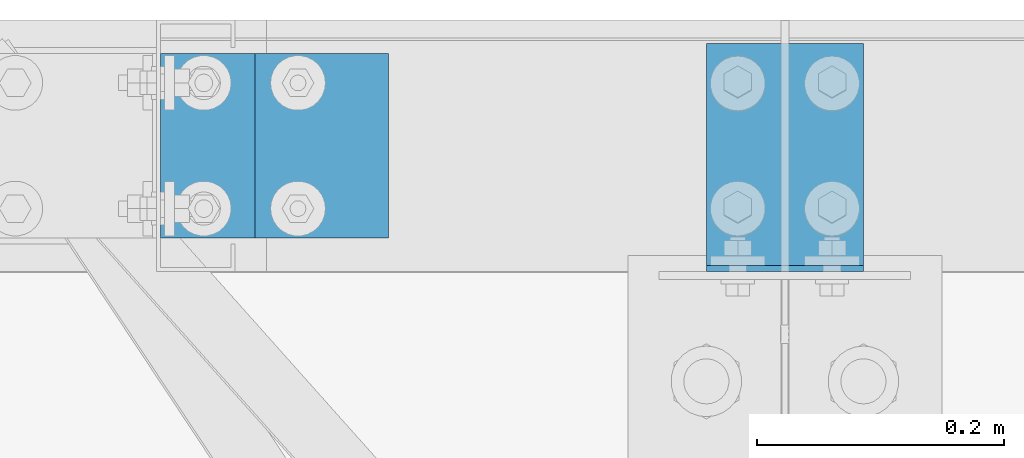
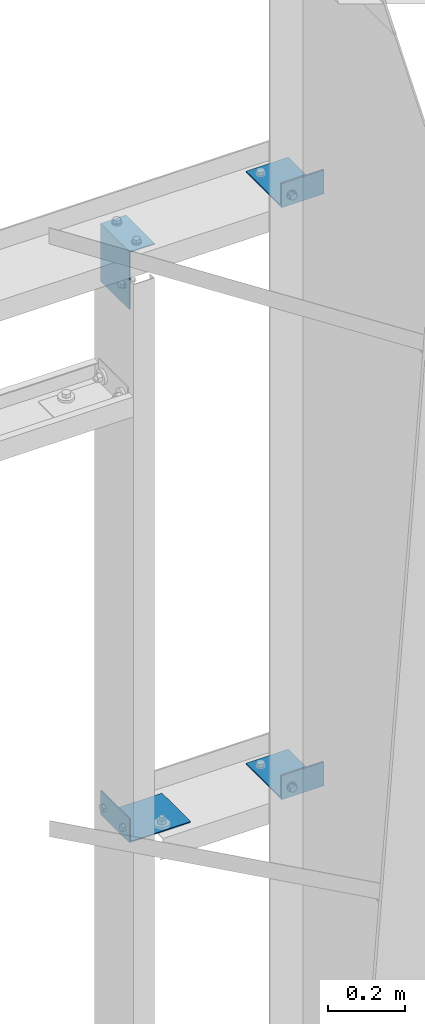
# One storey, part 185 of 185: 4 beams, 4 elements without a shape of their own.
"""IFC2X3 building model written with IfcOpenShell, lengths in millimetres."""

from ifc_helpers import new_model, si_unit, frame, origin_with_axes, place, context, subcontext, project, spatial, faceted_brep, material, type_object, element, aggregate, save


model = new_model("IFC2X3")

# Units and contexts
model_context = context("Model", 3, precision=1e-05, world=origin_with_axes())
body_context = subcontext(model_context, "Body", "Model", "MODEL_VIEW")
ifc_project = project(units=[si_unit("LENGTHUNIT", "METRE", prefix="MILLI"), si_unit("AREAUNIT", "SQUARE_METRE"), si_unit("VOLUMEUNIT", "CUBIC_METRE"), si_unit("MASSUNIT", "GRAM", prefix="KILO"), si_unit("TIMEUNIT", "SECOND"), si_unit("PLANEANGLEUNIT", "RADIAN"), si_unit("SOLIDANGLEUNIT", "STERADIAN"), si_unit("THERMODYNAMICTEMPERATUREUNIT", "DEGREE_CELSIUS"), si_unit("LUMINOUSINTENSITYUNIT", "LUMEN")], contexts=[model_context])

# Site, building, storey
site_placement = place(None, origin_with_axes())
site = spatial("IfcSite", under=ifc_project, at=site_placement, Name="Undefined", CompositionType="ELEMENT")
building_placement = place(site_placement, origin_with_axes())
building = spatial("IfcBuilding", under=site, at=building_placement, Name="Undefined", CompositionType="ELEMENT")
storey_placement = place(building_placement, origin_with_axes())
storey = spatial("IfcBuildingStorey", under=building, at=storey_placement, Name="Undefined", CompositionType="ELEMENT", Elevation=0.0)

# Assembly, beam
assembly_1_placement = place(storey_placement, origin_with_axes())
assembly_1 = element("IfcElementAssembly", 1, at=assembly_1_placement, inside=storey, Name="Steel Assembly", AssemblyPlace="NOTDEFINED", PredefinedType="RIGID_FRAME")
ifc_material = material(Name="STEEL/55")
beam_type_1 = type_object("IfcBeamType", Name="PL1/8\"X5 7/8\"", PredefinedType="NOTDEFINED")
beam_1_placement = place(assembly_1_placement, frame((44230.9300003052, 31902.4, 2289.17750003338), z_axis=(0.0, -1.0, 0.0), x_axis=(-1.0, 0.0, 0.0)))
beam_1 = element("IfcBeam", 2, at=beam_1_placement, type_object=beam_type_1, material=ifc_material, Name="UNIVERSAL AC-1 CLIP", ObjectType="PL1/8\"X5 7/8\"", context=body_context, shape_type="Brep", body=[
    faceted_brep([(0.0, -1.58749999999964, -74.6125), (0.0, -1.58749999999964, 74.6125), (0.0, 1.58749999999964, 74.6125), (0.0, 1.58749999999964, -74.6125), (184.149993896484, 1.58749999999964, 74.6125), (184.149993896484, 1.58749999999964, -74.6125), (180.974993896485, -1.58749999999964, -74.6125), (180.974993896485, -1.58749999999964, 74.6125), (184.149993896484, -74.6124969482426, 74.6125), (184.149993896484, -74.6124969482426, -74.6125), (180.974993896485, -74.6124969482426, 74.6125), (180.974993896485, -74.6124969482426, -74.6125)], [[[0, 1, 2, 3]], [[3, 2, 4, 5]], [[1, 0, 6, 7]], [[5, 4, 8, 9]], [[4, 2, 1, 7, 10, 8]], [[7, 6, 11, 10]], [[6, 0, 3, 5, 9, 11]], [[10, 11, 9, 8]]]),
])
aggregate(assembly_1, [beam_1])

assembly_2_placement = place(storey_placement, origin_with_axes())
assembly_2 = element("IfcElementAssembly", 3, at=assembly_2_placement, inside=storey, Name="Steel Assembly", AssemblyPlace="NOTDEFINED", PredefinedType="RIGID_FRAME")
beam_2_placement = place(assembly_2_placement, frame((44048.3675003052, 31902.4, 3979.85999996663), z_axis=(0.0, -1.0, 0.0), x_axis=(0.0, 0.0, 1.0)))
beam_2 = element("IfcBeam", 4, at=beam_2_placement, type_object=beam_type_1, material=ifc_material, Name="UNIVERSAL AC-1 CLIP", ObjectType="PL1/8\"X5 7/8\"", context=body_context, shape_type="Brep", body=[
    faceted_brep([(0.0, -1.58749999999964, -74.6125), (0.0, -1.58749999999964, 74.6125), (0.0, 1.58749999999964, 74.6125), (0.0, 1.58749999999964, -74.6125), (184.149993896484, 1.58749999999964, 74.6125), (184.149993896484, 1.58749999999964, -74.6125), (180.974993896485, -1.58749999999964, -74.6125), (180.974993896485, -1.58749999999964, 74.6125), (184.149993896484, -74.6124969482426, 74.6125), (184.149993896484, -74.6124969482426, -74.6125), (180.974993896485, -74.6124969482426, 74.6125), (180.974993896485, -74.6124969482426, -74.6125)], [[[0, 1, 2, 3]], [[3, 2, 4, 5]], [[1, 0, 6, 7]], [[5, 4, 8, 9]], [[4, 2, 1, 7, 10, 8]], [[7, 6, 11, 10]], [[6, 0, 3, 5, 9, 11]], [[10, 11, 9, 8]]]),
])
aggregate(assembly_2, [beam_2])

assembly_3_placement = place(storey_placement, origin_with_axes())
assembly_3 = element("IfcElementAssembly", 5, at=assembly_3_placement, inside=storey, Name="Steel Assembly", AssemblyPlace="NOTDEFINED", PredefinedType="RIGID_FRAME")
beam_type_2 = type_object("IfcBeamType", Name="FL3/16\"X5\"", PredefinedType="NOTDEFINED")
beam_3_placement = place(assembly_3_placement, frame((44551.6, 31803.18125, 2362.2), z_axis=(1.0, 0.0, 0.0), x_axis=(0.0, 0.0, -1.0)))
beam_3 = element("IfcBeam", 6, at=beam_3_placement, type_object=beam_type_2, material=ifc_material, Name="UNIVERSAL AC-1 CLIP", ObjectType="FL3/16\"X5\"", context=body_context, shape_type="Brep", body=[
    faceted_brep([(0.0, -2.38124999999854, -63.5), (0.0, -2.38124999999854, 63.5), (0.0, 2.38124999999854, 63.5), (0.0, 2.38124999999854, -63.5), (71.4374969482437, 2.38124999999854, 63.5), (71.4374969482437, 2.38124999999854, -63.5), (76.1999969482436, -2.38124999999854, -63.5), (76.1999969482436, -2.38124999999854, 63.5), (71.4374969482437, 181.768743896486, 63.5), (71.4374969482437, 181.768743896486, -63.5), (76.1999969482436, 181.768743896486, 63.5), (76.1999969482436, 181.768743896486, -63.5)], [[[0, 1, 2, 3]], [[3, 2, 4, 5]], [[1, 0, 6, 7]], [[5, 4, 8, 9]], [[4, 2, 1, 7, 10, 8]], [[7, 6, 11, 10]], [[6, 0, 3, 5, 9, 11]], [[10, 11, 9, 8]]]),
])
aggregate(assembly_3, [beam_3])

assembly_4_placement = place(storey_placement, origin_with_axes())
assembly_4 = element("IfcElementAssembly", 7, at=assembly_4_placement, inside=storey, Name="Steel Assembly", AssemblyPlace="NOTDEFINED", PredefinedType="RIGID_FRAME")
beam_4_placement = place(assembly_4_placement, frame((44551.6, 31803.18125, 4241.8), z_axis=(1.0, 0.0, 0.0), x_axis=(0.0, 0.0, -1.0)))
beam_4 = element("IfcBeam", 8, at=beam_4_placement, type_object=beam_type_2, material=ifc_material, Name="UNIVERSAL AC-1 CLIP", ObjectType="FL3/16\"X5\"", context=body_context, shape_type="Brep", body=[
    faceted_brep([(0.0, -2.38124999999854, -63.5), (0.0, -2.38124999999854, 63.5), (0.0, 2.38124999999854, 63.5), (0.0, 2.38124999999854, -63.5), (71.4374969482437, 2.38124999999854, 63.5), (71.4374969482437, 2.38124999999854, -63.5), (76.1999969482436, -2.38124999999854, -63.5), (76.1999969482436, -2.38124999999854, 63.5), (71.4374969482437, 181.768743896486, 63.5), (71.4374969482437, 181.768743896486, -63.5), (76.1999969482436, 181.768743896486, 63.5), (76.1999969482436, 181.768743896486, -63.5)], [[[0, 1, 2, 3]], [[3, 2, 4, 5]], [[1, 0, 6, 7]], [[5, 4, 8, 9]], [[4, 2, 1, 7, 10, 8]], [[7, 6, 11, 10]], [[6, 0, 3, 5, 9, 11]], [[10, 11, 9, 8]]]),
])
aggregate(assembly_4, [beam_4])

save(model, "model.ifc")
